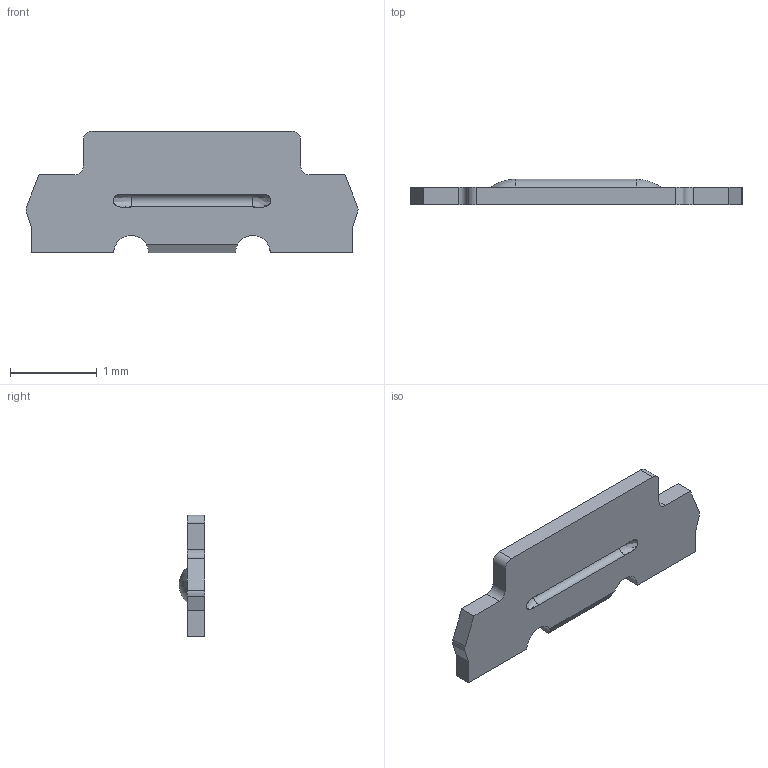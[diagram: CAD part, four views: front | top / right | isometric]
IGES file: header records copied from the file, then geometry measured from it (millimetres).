
Start section:  PTC IGES file: t-dsc20-800x00_1_prt.igs
Global section: file name: t-dsc20-800x00_1_prt.igs; native system: Pro/ENGINEER by Parametric Technology Corporation; preprocessor: 2006170; author: GRA; organization: Unknown; date: 20080630.105214; units: millimetre
Bounding box: 3.82 x 0.29 x 1.4 mm (x, y, z)
Surface area: 11.2 mm2 (no closed solid volume)
Topology: 0 solids, 0 shells, 32 faces, 180 edges, 180 vertices
Faces by surface type: bspline 18, revolution 14
